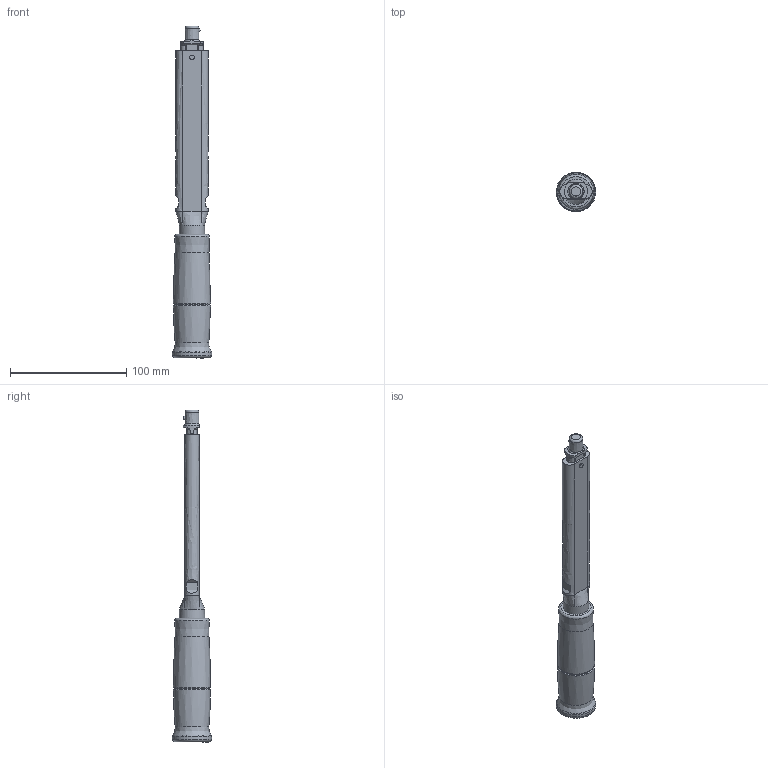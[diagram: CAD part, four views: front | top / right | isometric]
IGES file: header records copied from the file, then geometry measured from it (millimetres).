
Global section: file name: BCSP70NX12D_Shrinkwrap_1; native system: Autodesk Inventor 2018; preprocessor: unknown; author: Q618; date: 20180621.161911; units: millimetre
Bounding box: 34 x 33.99 x 286 mm (x, y, z)
Volume: 131758.3 mm3; surface area: 24491.6 mm2
Topology: 3 solids, 3 shells, 94 faces, 248 edges, 168 vertices
Faces by surface type: bspline 94
